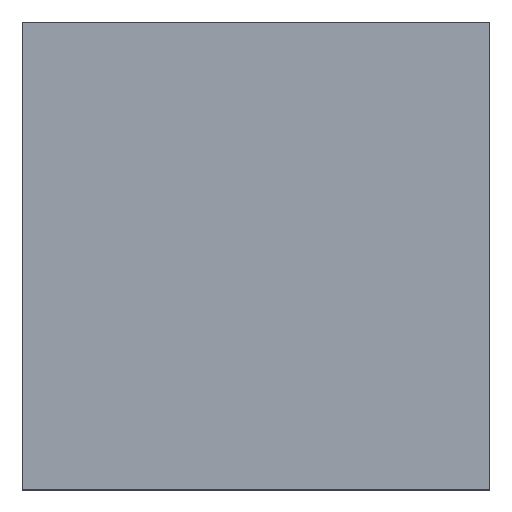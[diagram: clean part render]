
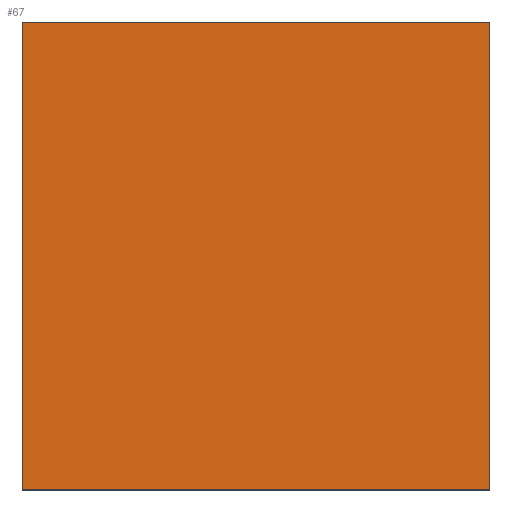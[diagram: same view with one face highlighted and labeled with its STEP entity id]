
A CAD part, top view. The second image highlights one B-rep face of the part: STEP entity #67.
In plain terms, the highlighted planar face has unit normal (0, 0, 1).
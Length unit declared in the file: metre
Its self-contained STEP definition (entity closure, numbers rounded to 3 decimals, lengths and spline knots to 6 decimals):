
#67=ADVANCED_FACE('0:83',(#88),#89,.T.);
#88=FACE_OUTER_BOUND('',#117,.T.);
#89=PLANE('',#118);
#117=EDGE_LOOP('',(#171,#172,#173,#174));
#118=AXIS2_PLACEMENT_3D('',#175,#176,#177);
#171=ORIENTED_EDGE('',*,*,#239,.F.);
#172=ORIENTED_EDGE('',*,*,#236,.F.);
#173=ORIENTED_EDGE('',*,*,#233,.F.);
#174=ORIENTED_EDGE('',*,*,#229,.F.);
#175=CARTESIAN_POINT('',(0.0,0.0,0.003));
#176=DIRECTION('',(0.0,0.0,1.0));
#177=DIRECTION('',(1.0,0.0,0.0));
#229=EDGE_CURVE('0:101',#258,#259,#260,.F.);
#233=EDGE_CURVE('0:110',#259,#266,#267,.F.);
#236=EDGE_CURVE('0:119',#266,#271,#272,.F.);
#239=EDGE_CURVE('0:89',#271,#258,#276,.F.);
#258=VERTEX_POINT('',#300);
#259=VERTEX_POINT('',#301);
#260=LINE('',#302,#303);
#266=VERTEX_POINT('',#312);
#267=LINE('',#313,#314);
#271=VERTEX_POINT('',#320);
#272=LINE('',#321,#322);
#276=LINE('',#328,#329);
#300=CARTESIAN_POINT('',(-0.01,-0.01,0.003));
#301=CARTESIAN_POINT('',(-0.01,0.01,0.003));
#302=CARTESIAN_POINT('',(-0.01,0.0,0.003));
#303=VECTOR('',#354,1.0);
#312=CARTESIAN_POINT('',(0.01,0.01,0.003));
#313=CARTESIAN_POINT('',(0.0,0.01,0.003));
#314=VECTOR('',#358,1.0);
#320=CARTESIAN_POINT('',(0.01,-0.01,0.003));
#321=CARTESIAN_POINT('',(0.01,0.0,0.003));
#322=VECTOR('',#361,1.0);
#328=CARTESIAN_POINT('',(0.0,-0.01,0.003));
#329=VECTOR('',#364,1.0);
#354=DIRECTION('',(0.0,-1.0,0.0));
#358=DIRECTION('',(-1.0,0.0,0.0));
#361=DIRECTION('',(0.0,1.0,0.0));
#364=DIRECTION('',(1.0,0.0,-0.0));
